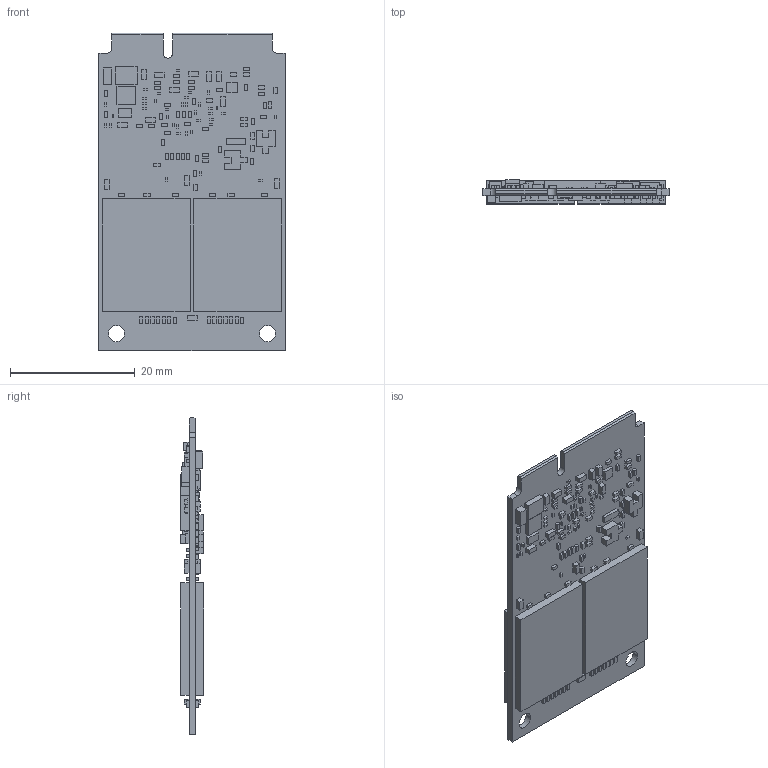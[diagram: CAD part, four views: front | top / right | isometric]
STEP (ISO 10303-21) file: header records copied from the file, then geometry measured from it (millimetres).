
FILE_DESCRIPTION((''),'2;1');
FILE_NAME('PCBA_MSATA_ASM','2018-12-19T',('otto_lian'),(''),'PRO/ENGINEER BY PARAMETRIC TECHNOLOGY CORPORATION, 2011180','PRO/ENGINEER BY PARAMETRIC TECHNOLOGY CORPORATION, 2011180','');
FILE_SCHEMA(('CONFIG_CONTROL_DESIGN'));
Products named in the file (29): PCB_MSATA; L_252012; R0201_KDI; R0805S-SHORTPAD; DFN8P_2X2_0P5_EP; DFN10P_3X3_0P5_EP; NXP_BGA4P_0P9X0P9_0P5; F1210; SOT23_6P_2P9X1P6_0P95; SOT_563_6P_1P6X1P2_0P5; SOD_323F; R1206; XTAL4P_2016; BGA169P_9X9_0P65; L_WQPC2S14_2R2_S; DFN6P_2X2_0P65_EP; R0402; C0402; C0603; C0805; R0201; C0201; L0603_LB1206; LED0603; SOT_23_123; BGA152P_14X18_1P0; SOD523_323; 2011011NP004803N_2018-1219_ASM; PCBA_MSATA_ASM
Assembly tree (229 placements, depth 3):
  PCBA_MSATA_ASM
    PCB_MSATA
    2011011NP004803N_2018-1219_ASM
      L_252012
      R0201_KDI
      R0805S-SHORTPAD
      DFN8P_2X2_0P5_EP
      DFN10P_3X3_0P5_EP
      NXP_BGA4P_0P9X0P9_0P5
      F1210
      SOT23_6P_2P9X1P6_0P95
      SOT_563_6P_1P6X1P2_0P5
      SOD_323F
      R1206
      XTAL4P_2016
      BGA169P_9X9_0P65
      L_WQPC2S14_2R2_S
      DFN6P_2X2_0P65_EP
      R0402  x45
      C0402  x67
      C0603  x18
      C0805  x2
      R0201  x21
      C0201  x41
      L0603_LB1206  x7
      LED0603  x2
      SOT_23_123  x3
      BGA152P_14X18_1P0  x4
      SOD523_323  x2
Bounding box: 29.85 x 3.8 x 50.8 mm (x, y, z)
Volume: 3122.6 mm3; surface area: 6641.8 mm2
Topology: 228 solids, 228 shells, 1410 faces, 3132 edges, 2182 vertices
Faces by surface type: plane 1403, cylinder 7
Entity records: 9948 total; most frequent: DIRECTION 2101, CARTESIAN_POINT 1643, ORIENTED_EDGE 804, AXIS2_PLACEMENT_3D 726, VECTOR 649, LINE 649, EDGE_CURVE 402, TRIMMED_CURVE 270
